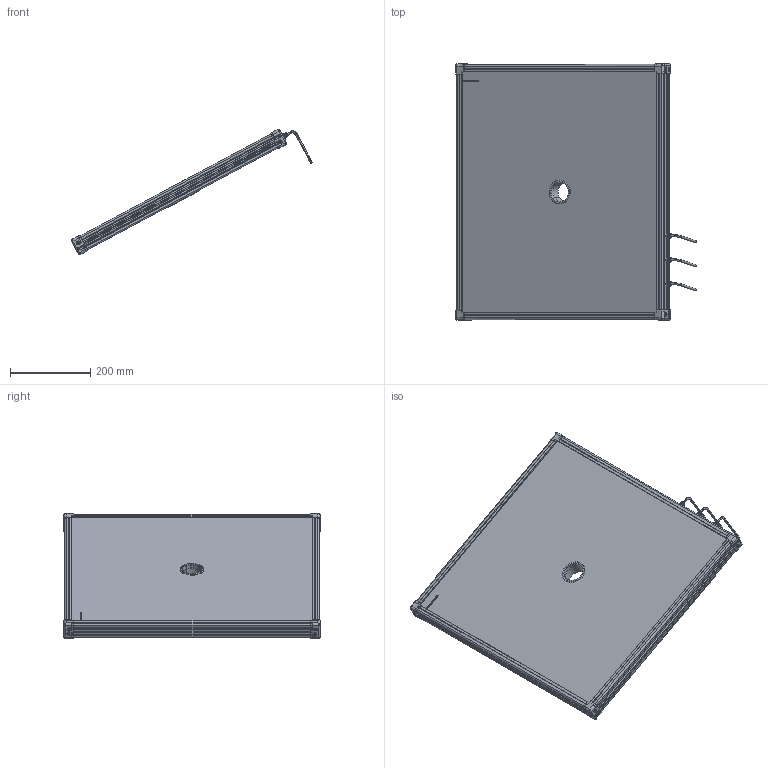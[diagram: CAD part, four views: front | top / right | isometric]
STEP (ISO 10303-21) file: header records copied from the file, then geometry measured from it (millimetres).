
FILE_DESCRIPTION (( 'STEP AP214' ), '1' );
FILE_NAME ('EFFI-BL-550-600-XXX-3M12.STEP', '2021-06-23T07:53:35', ( '' ), ( '' ), 'SwSTEP 2.0', 'SolidWorks 2021', '' );
FILE_SCHEMA (( 'AUTOMOTIVE_DESIGN' ));
Length unit declared in the file: millimetre
Products named in the file (13): Assemblage Ø50; profile Y_PERCE; 001039; petite joue; Pièce13^EFFI-BL-XXX-YYY-ZZZ (3 connecteurs) Ø50; 000629; petite joue + vis; cordon_Avec cable; 001040; 000590; profile X_PERCE; EFFI-BL-550-600-XXX-3M12
Assembly tree (21 placements, depth 3):
  EFFI-BL-550-600-XXX-3M12
    profile X_PERCE  x2
    profile Y_PERCE
    profile Y_PERCE
    Pièce13^EFFI-BL-XXX-YYY-ZZZ (3 connecteurs) Ø50
    petite joue + vis  x4
      petite joue
      000629
    Assemblage Ø50
      001039
      001040
      000590  x3
    cordon_Avec cable  x3
Bounding box: 600.28 x 639 x 311.73 mm (x, y, z)
Volume: 12993071.8 mm3; surface area: 1146660.4 mm2
Topology: 22 solids, 40 shells, 4123 faces, 10940 edges, 7177 vertices
Faces by surface type: plane 2536, cylinder 759, bspline 609, cone 156, torus 55, sphere 8
Entity records: 57210 total; most frequent: CARTESIAN_POINT 22824, ORIENTED_EDGE 7166, DIRECTION 5912, EDGE_CURVE 3587, VECTOR 2498, LINE 2498, VERTEX_POINT 2358, AXIS2_PLACEMENT_3D 1707
